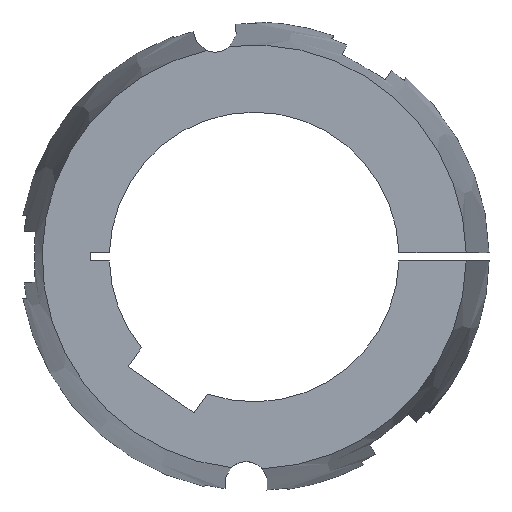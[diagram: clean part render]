
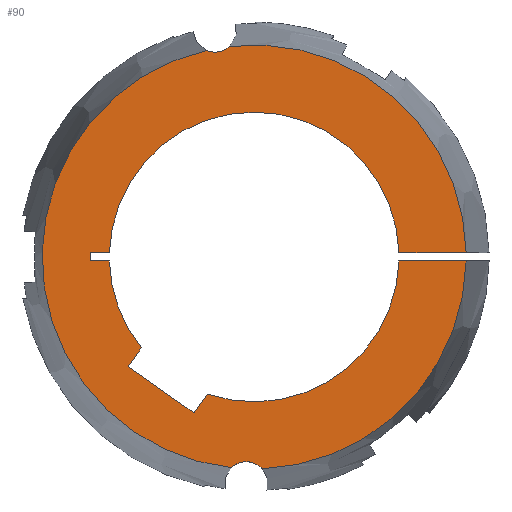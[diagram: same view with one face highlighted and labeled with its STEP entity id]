
A CAD part, left-side view. The second image highlights one B-rep face of the part: STEP entity #90.
In plain terms, the highlighted planar face has unit normal (-1, 0, 0).
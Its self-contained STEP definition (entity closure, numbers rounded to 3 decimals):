
#90 = ADVANCED_FACE( '', ( #140 ), #141, .F. );
#140 = FACE_OUTER_BOUND( '', #208, .T. );
#141 = PLANE( '', #209 );
#208 = EDGE_LOOP( '', ( #369, #370, #371, #372, #373, #374, #375, #376, #377, #378, #379, #380, #381, #382, #383, #384 ) );
#209 = AXIS2_PLACEMENT_3D( '', #385, #386, #387 );
#369 = ORIENTED_EDGE( '', *, *, #548, .F. );
#370 = ORIENTED_EDGE( '', *, *, #601, .F. );
#371 = ORIENTED_EDGE( '', *, *, #570, .T. );
#372 = ORIENTED_EDGE( '', *, *, #583, .T. );
#373 = ORIENTED_EDGE( '', *, *, #581, .T. );
#374 = ORIENTED_EDGE( '', *, *, #578, .T. );
#375 = ORIENTED_EDGE( '', *, *, #587, .T. );
#376 = ORIENTED_EDGE( '', *, *, #602, .T. );
#377 = ORIENTED_EDGE( '', *, *, #603, .T. );
#378 = ORIENTED_EDGE( '', *, *, #604, .T. );
#379 = ORIENTED_EDGE( '', *, *, #605, .T. );
#380 = ORIENTED_EDGE( '', *, *, #606, .T. );
#381 = ORIENTED_EDGE( '', *, *, #572, .T. );
#382 = ORIENTED_EDGE( '', *, *, #607, .F. );
#383 = ORIENTED_EDGE( '', *, *, #551, .F. );
#384 = ORIENTED_EDGE( '', *, *, #608, .F. );
#385 = CARTESIAN_POINT( '', ( -102., 0., 0. ) );
#386 = DIRECTION( '', ( 1., 0., 0. ) );
#387 = DIRECTION( '', ( 0., 1., 0. ) );
#548 = EDGE_CURVE( '', #649, #651, #652, .F. );
#551 = EDGE_CURVE( '', #655, #657, #658, .F. );
#570 = EDGE_CURVE( '', #693, #691, #694, .T. );
#572 = EDGE_CURVE( '', #696, #697, #698, .T. );
#578 = EDGE_CURVE( '', #709, #707, #710, .T. );
#581 = EDGE_CURVE( '', #714, #709, #715, .T. );
#583 = EDGE_CURVE( '', #691, #714, #717, .T. );
#587 = EDGE_CURVE( '', #707, #721, #723, .T. );
#601 = EDGE_CURVE( '', #693, #649, #745, .T. );
#602 = EDGE_CURVE( '', #721, #746, #747, .T. );
#603 = EDGE_CURVE( '', #746, #748, #749, .T. );
#604 = EDGE_CURVE( '', #748, #750, #751, .T. );
#605 = EDGE_CURVE( '', #750, #752, #753, .T. );
#606 = EDGE_CURVE( '', #752, #696, #754, .T. );
#607 = EDGE_CURVE( '', #657, #697, #755, .T. );
#608 = EDGE_CURVE( '', #651, #655, #756, .T. );
#649 = VERTEX_POINT( '', #815 );
#651 = VERTEX_POINT( '', #828 );
#652 = CIRCLE( '', #829, 6.75 );
#655 = VERTEX_POINT( '', #843 );
#657 = VERTEX_POINT( '', #856 );
#658 = CIRCLE( '', #857, 6.75 );
#691 = VERTEX_POINT( '', #924 );
#693 = VERTEX_POINT( '', #927 );
#694 = LINE( '', #928, #929 );
#696 = VERTEX_POINT( '', #937 );
#697 = VERTEX_POINT( '', #938 );
#698 = LINE( '', #939, #940 );
#707 = VERTEX_POINT( '', #958 );
#709 = VERTEX_POINT( '', #961 );
#710 = LINE( '', #962, #963 );
#714 = VERTEX_POINT( '', #969 );
#715 = LINE( '', #970, #971 );
#717 = CIRCLE( '', #974, 45. );
#721 = VERTEX_POINT( '', #979 );
#723 = LINE( '', #982, #983 );
#745 = CIRCLE( '', #1008, 65.867 );
#746 = VERTEX_POINT( '', #1009 );
#747 = CIRCLE( '', #1010, 45. );
#748 = VERTEX_POINT( '', #1011 );
#749 = LINE( '', #1012, #1013 );
#750 = VERTEX_POINT( '', #1014 );
#751 = LINE( '', #1015, #1016 );
#752 = VERTEX_POINT( '', #1017 );
#753 = LINE( '', #1018, #1019 );
#754 = CIRCLE( '', #1020, 45. );
#755 = CIRCLE( '', #1021, 65.867 );
#756 = CIRCLE( '', #1022, 65.867 );
#815 = CARTESIAN_POINT( '', ( -102., -2.538, -65.819 ) );
#828 = CARTESIAN_POINT( '', ( -102., 7.121, -65.481 ) );
#829 = AXIS2_PLACEMENT_3D( '', #1188, #1189, #1190 );
#843 = CARTESIAN_POINT( '', ( -102., 14.891, 64.162 ) );
#856 = CARTESIAN_POINT( '', ( -102., 7.611, 65.426 ) );
#857 = AXIS2_PLACEMENT_3D( '', #1191, #1192, #1193 );
#924 = CARTESIAN_POINT( '', ( -102., -44.983, -1.25 ) );
#927 = CARTESIAN_POINT( '', ( -102., -65.856, -1.25 ) );
#928 = CARTESIAN_POINT( '', ( -102., -73., -1.25 ) );
#929 = VECTOR( '', #1223, 1000. );
#937 = CARTESIAN_POINT( '', ( -102., -44.983, 1.25 ) );
#938 = CARTESIAN_POINT( '', ( -102., -65.856, 1.25 ) );
#939 = CARTESIAN_POINT( '', ( -102., 0., 1.25 ) );
#940 = VECTOR( '', #1224, 1000. );
#958 = CARTESIAN_POINT( '', ( -102., 39.148, -34.116 ) );
#961 = CARTESIAN_POINT( '', ( -102., 18.669, -48.455 ) );
#962 = CARTESIAN_POINT( '', ( -102., 18.669, -48.455 ) );
#963 = VECTOR( '', #1229, 1000. );
#969 = CARTESIAN_POINT( '', ( -102., 14.556, -42.581 ) );
#970 = CARTESIAN_POINT( '', ( -102., 14.556, -42.581 ) );
#971 = VECTOR( '', #1232, 1000. );
#974 = AXIS2_PLACEMENT_3D( '', #1234, #1235, #1236 );
#979 = CARTESIAN_POINT( '', ( -102., 35.035, -28.241 ) );
#982 = CARTESIAN_POINT( '', ( -102., 39.148, -34.116 ) );
#983 = VECTOR( '', #1242, 1000. );
#1008 = AXIS2_PLACEMENT_3D( '', #1276, #1277, #1278 );
#1009 = CARTESIAN_POINT( '', ( -102., 44.983, -1.25 ) );
#1010 = AXIS2_PLACEMENT_3D( '', #1279, #1280, #1281 );
#1011 = CARTESIAN_POINT( '', ( -102., 51., -1.25 ) );
#1012 = CARTESIAN_POINT( '', ( -102., 0., -1.25 ) );
#1013 = VECTOR( '', #1282, 1000. );
#1014 = CARTESIAN_POINT( '', ( -102., 51., 1.25 ) );
#1015 = CARTESIAN_POINT( '', ( -102., 51., -1.25 ) );
#1016 = VECTOR( '', #1283, 1000. );
#1017 = CARTESIAN_POINT( '', ( -102., 44.983, 1.25 ) );
#1018 = CARTESIAN_POINT( '', ( -102., 51., 1.25 ) );
#1019 = VECTOR( '', #1284, 1000. );
#1020 = AXIS2_PLACEMENT_3D( '', #1285, #1286, #1287 );
#1021 = AXIS2_PLACEMENT_3D( '', #1288, #1289, #1290 );
#1022 = AXIS2_PLACEMENT_3D( '', #1291, #1292, #1293 );
#1188 = CARTESIAN_POINT( '', ( -102., 2.456, -70.36 ) );
#1189 = DIRECTION( '', ( 1., 0., 0. ) );
#1190 = DIRECTION( '', ( 0., 1., 0. ) );
#1191 = CARTESIAN_POINT( '', ( -102., 12.218, 70.36 ) );
#1192 = DIRECTION( '', ( 1., 0., 0. ) );
#1193 = DIRECTION( '', ( 0., 1., 0. ) );
#1223 = DIRECTION( '', ( 0., 1., 0. ) );
#1224 = DIRECTION( '', ( 0., -1., 0. ) );
#1229 = DIRECTION( '', ( 0., 0.819, 0.574 ) );
#1232 = DIRECTION( '', ( 0., 0.574, -0.819 ) );
#1234 = CARTESIAN_POINT( '', ( -102., 0., 0. ) );
#1235 = DIRECTION( '', ( 1., 0., 0. ) );
#1236 = DIRECTION( '', ( 0., 0., -1. ) );
#1242 = DIRECTION( '', ( 0., -0.574, 0.819 ) );
#1276 = CARTESIAN_POINT( '', ( -102., 0., 0. ) );
#1277 = DIRECTION( '', ( 1., 0., 0. ) );
#1278 = DIRECTION( '', ( 0., 1., 0. ) );
#1279 = CARTESIAN_POINT( '', ( -102., 0., 0. ) );
#1280 = DIRECTION( '', ( 1., 0., 0. ) );
#1281 = DIRECTION( '', ( 0., 0., -1. ) );
#1282 = DIRECTION( '', ( 0., 1., 0. ) );
#1283 = DIRECTION( '', ( 0., 0., 1. ) );
#1284 = DIRECTION( '', ( 0., -1., 0. ) );
#1285 = CARTESIAN_POINT( '', ( -102., 0., 0. ) );
#1286 = DIRECTION( '', ( 1., 0., 0. ) );
#1287 = DIRECTION( '', ( 0., 0., -1. ) );
#1288 = CARTESIAN_POINT( '', ( -102., 0., 0. ) );
#1289 = DIRECTION( '', ( 1., 0., 0. ) );
#1290 = DIRECTION( '', ( 0., 1., 0. ) );
#1291 = CARTESIAN_POINT( '', ( -102., 0., 0. ) );
#1292 = DIRECTION( '', ( 1., 0., 0. ) );
#1293 = DIRECTION( '', ( 0., 1., 0. ) );
